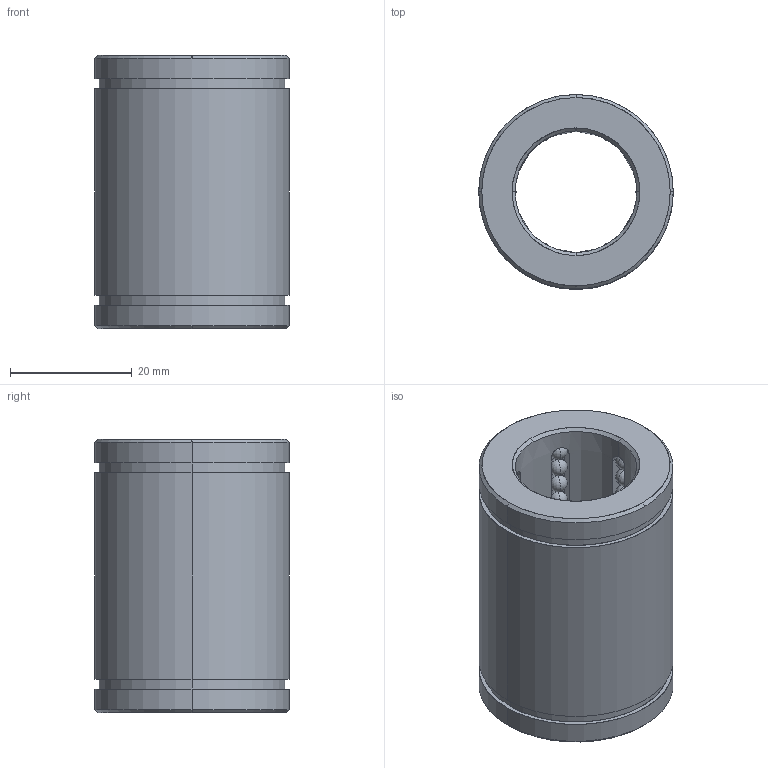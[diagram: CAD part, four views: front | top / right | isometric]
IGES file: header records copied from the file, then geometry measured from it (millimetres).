
Start section: START RECORD GO HERE.
Global section: file name: B8032045.igs; native system: DASSAULT SYSTEMES CATIA V5 R20 - www.3ds.com; preprocessor: CATIA Version 5 Release 20 ; author: Utente; organization: NB04-ASUS; date: 20200419.161650; units: millimetre
Bounding box: 32 x 32 x 45 mm (x, y, z)
Surface area: 11965.8 mm2 (no closed solid volume)
Topology: 0 solids, 0 shells, 352 faces, 1460 edges, 884 vertices
Faces by surface type: revolution 328, plane 24
